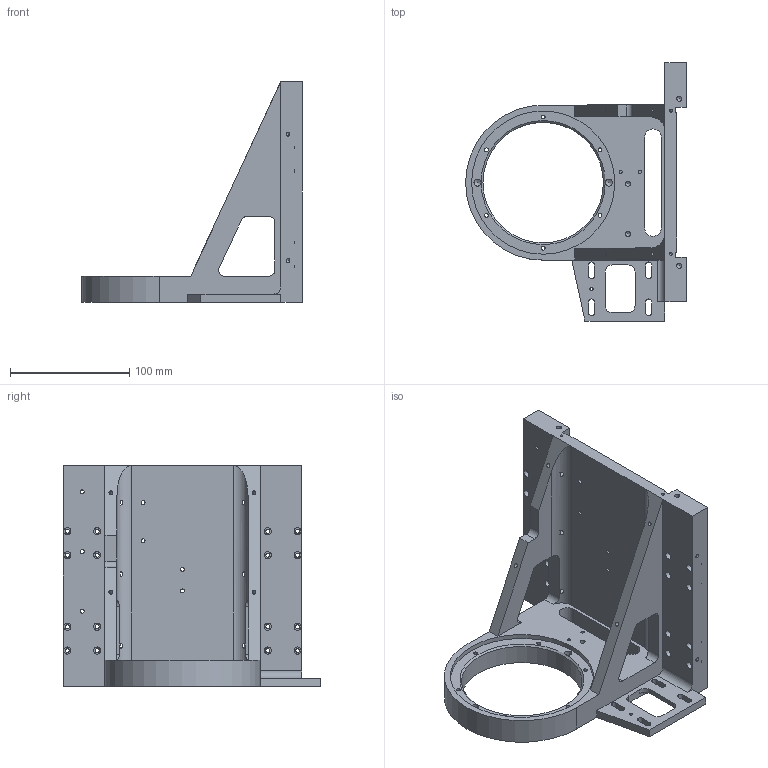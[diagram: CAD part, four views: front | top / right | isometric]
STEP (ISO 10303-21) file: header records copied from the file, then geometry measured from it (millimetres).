
FILE_DESCRIPTION(('TFLEX Exchange Step'),'2;1');
FILE_NAME('X2\0413042E042D0424\X0\.733151.006 корпус.stp', '2024-11-22T09:19:52+03:00',('Laurynovich'),('Unknown organisation'),'TFLEX Exchange 2020.0','T-FLEX CAD','Unknown authorisation');
FILE_SCHEMA( ('AUTOMOTIVE_DESIGN { 1 0 10303 214 1 1 1 1 }') );
Length unit declared in the file: millimetre
Products named in the file (109): 0; 3D Узел_162; 3D Узел_137; 3D Узел_41; 3D Узел_168; 3D Узел_191; 3D Узел_182; 3D Узел_163; 3D Узел_160; 3D Узел_190; 3D Узел_135; 3D Узел_153; 3D Узел_161; 3D Узел_173; 3D Узел_44; 3D Узел_46; 3D Узел_187; 3D Узел_48; 3D Узел_143; 3D Узел_156; 3D Узел_185; 3D Узел_140; 3D Узел_236; 3D Узел_249; 3D Узел_248; 3D Узел_52; 3D Узел_251; 3D Узел_250; 3D Узел_47; 3D Узел_180; 3D Узел_155; 3D Узел_54; 3D Узел_189; 3D Узел_56; 3D Узел_166; 3D Узел_22; 3D Узел_49; 3D Узел_45; 3D Узел_154; 3D Узел_152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
Assembly tree (108 placements, depth 3):
  г733151006корпZ
    0
    0
      3D Узел_162
      3D Узел_137
      3D Узел_41
      3D Узел_168
      3D Узел_191
      3D Узел_182
      3D Узел_163
      3D Узел_160
      3D Узел_190
      3D Узел_135
      3D Узел_153
      3D Узел_161
      3D Узел_173
      3D Узел_44
      3D Узел_46
      3D Узел_187
      3D Узел_48
      3D Узел_143
      3D Узел_156
      3D Узел_185
      3D Узел_140
      3D Узел_236
      3D Узел_249
      3D Узел_248
      3D Узел_52
      3D Узел_251
      3D Узел_250
      3D Узел_47
      3D Узел_180
      3D Узел_155
      3D Узел_54
      3D Узел_189
      3D Узел_56
      3D Узел_166
      3D Узел_22
      3D Узел_49
      3D Узел_45
      3D Узел_154
      3D Узел_152
      3D Узел_170
      3D Узел_159
      3D Узел_53
      3D Узел_43
      3D Узел_42
      3D Узел_164
      3D Узел_150
      3D Узел_144
      3D Узел_157
      3D Узел_165
      3D Узел_271
      3D Узел_270
      3D Узел_266
      3D Узел_265
      3D Узел_269
      3D Узел_268
      3D Узел_244
      3D Узел_151
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Bounding box: 185 x 216 x 185 mm (x, y, z)
Volume: 797506.9 mm3; surface area: 162004.2 mm2
Topology: 1 solids, 3 shells, 218 faces, 572 edges, 479 vertices
Faces by surface type: cylinder 116, plane 81, cone 21
Full cylindrical faces by diameter (mm): 2.459 x4, 3.2 x6, 3.242 x13, 3.4 x16, 4.134 x10, 4.917 x2, 6 x18, 101 x1, 120 x1
Entity records: 10166 total; most frequent: CARTESIAN_POINT 1874, DIRECTION 1649, ORIENTED_EDGE 1104, AXIS2_PLACEMENT_3D 675, EDGE_CURVE 552, VERTEX_POINT 373, EDGE_LOOP 341, FACE_BOUND 341
